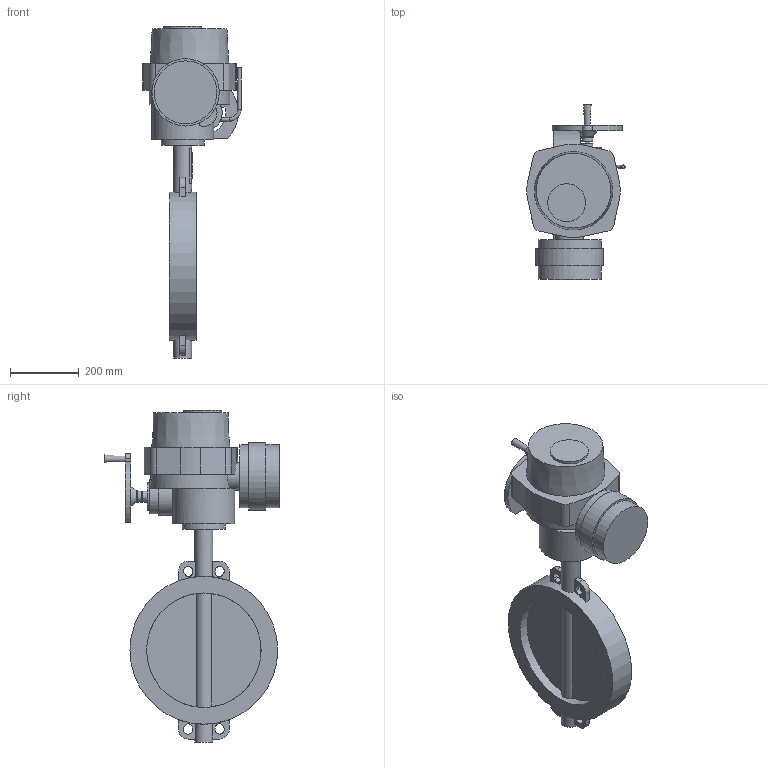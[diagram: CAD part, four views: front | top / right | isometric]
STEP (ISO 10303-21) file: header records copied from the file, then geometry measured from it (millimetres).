
FILE_DESCRIPTION(('STEP AP203'), '1');
FILE_NAME('Çàòâîð 017W.Z(÷óãóí) DN350+ÝÏ QT.A120', '', ('UNSPECIFIED'), ('UNSPECIFIED'), 'ASCON STEP Converter 1.6', 'ASCON Math Kernel', '');
FILE_SCHEMA(('CONFIG_CONTROL_DESIGN'));
Length unit declared in the file: millimetre
Bounding box: 285.64 x 509 x 966 mm (x, y, z)
Volume: 17847083.1 mm3; surface area: 1142681.6 mm2
Topology: 1 solids, 2 shells, 906 faces, 2631 edges, 1698 vertices
Faces by surface type: cylinder 664, plane 238, cone 3, torus 1
Full cylindrical faces by diameter (mm): 10 x6, 12 x4, 14 x4, 16 x1, 31.6 x1, 32 x2, 35 x2, 52 x2, 70 x1, 80 x2, 100 x1, 110 x1, 125 x1, 180 x1, 183 x2, 196 x1, 333.3 x2, 430 x1
Entity records: 38931 total; most frequent: CARTESIAN_POINT 6528, DIRECTION 5799, ORIENTED_EDGE 5108, EDGE_CURVE 2593, AXIS2_PLACEMENT_3D 2323, VERTEX_POINT 1698, CIRCLE 1416, LINE 1153
